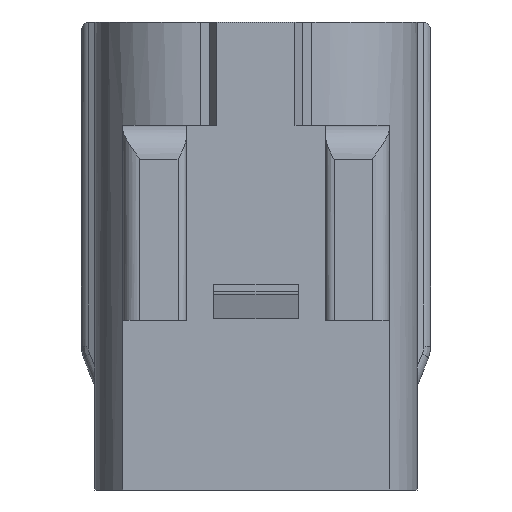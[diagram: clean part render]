
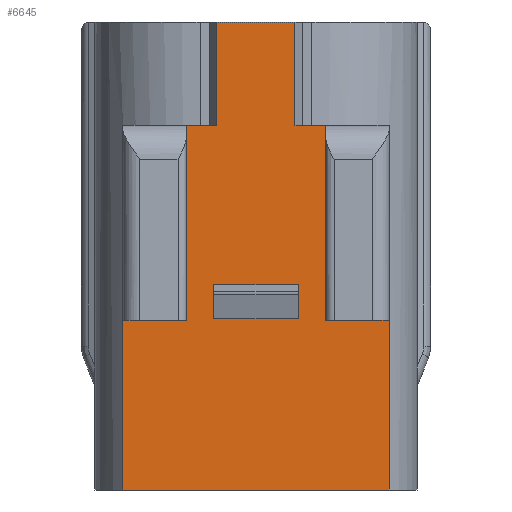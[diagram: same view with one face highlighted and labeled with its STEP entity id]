
A CAD part, front view. The second image highlights one B-rep face of the part: STEP entity #6645.
In plain terms, the highlighted planar face has unit normal (0, -1, 0).
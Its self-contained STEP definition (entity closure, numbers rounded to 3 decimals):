
#899=DIRECTION('',(-1.,0.,0.));
#900=VECTOR('',#899,15.7);
#901=CARTESIAN_POINT('',(7.85,-11.55,-27.6));
#902=LINE('',#901,#900);
#1352=DIRECTION('',(1.,0.,0.));
#1353=VECTOR('',#1352,4.6);
#1354=CARTESIAN_POINT('',(-2.3,-11.55,0.));
#1355=LINE('',#1354,#1353);
#1604=DIRECTION('',(0.,0.,1.));
#1605=VECTOR('',#1604,2.5);
#1606=CARTESIAN_POINT('',(-4.1,-11.55,-8.6));
#1607=LINE('',#1606,#1605);
#1628=DIRECTION('',(-1.,0.,0.));
#1629=VECTOR('',#1628,1.8);
#1630=CARTESIAN_POINT('',(-2.3,-11.55,-6.1));
#1631=LINE('',#1630,#1629);
#1644=DIRECTION('',(-1.,0.,0.));
#1645=VECTOR('',#1644,1.8);
#1646=CARTESIAN_POINT('',(4.1,-11.55,-6.1));
#1647=LINE('',#1646,#1645);
#1676=DIRECTION('',(0.,0.,1.));
#1677=VECTOR('',#1676,9.);
#1678=CARTESIAN_POINT('',(-6.65,-11.55,-17.6));
#1679=LINE('',#1678,#1677);
#1680=DIRECTION('',(0.,0.,-1.));
#1681=VECTOR('',#1680,6.1);
#1682=CARTESIAN_POINT('',(-2.3,-11.55,0.));
#1683=LINE('',#1682,#1681);
#1684=DIRECTION('',(0.,0.,1.));
#1685=VECTOR('',#1684,2.5);
#1686=CARTESIAN_POINT('',(4.1,-11.55,-8.6));
#1687=LINE('',#1686,#1685);
#1688=DIRECTION('',(0.,0.,-1.));
#1689=VECTOR('',#1688,10.);
#1690=CARTESIAN_POINT('',(-7.85,-11.55,-17.6));
#1691=LINE('',#1690,#1689);
#1692=DIRECTION('',(0.,0.,-1.));
#1693=VECTOR('',#1692,2.);
#1694=CARTESIAN_POINT('',(-2.5,-11.55,-15.5));
#1695=LINE('',#1694,#1693);
#1696=DIRECTION('',(1.,0.,0.));
#1697=VECTOR('',#1696,5.);
#1698=CARTESIAN_POINT('',(-2.5,-11.55,-17.5));
#1699=LINE('',#1698,#1697);
#1700=DIRECTION('',(0.,0.,-1.));
#1701=VECTOR('',#1700,2.);
#1702=CARTESIAN_POINT('',(2.5,-11.55,-15.5));
#1703=LINE('',#1702,#1701);
#1704=DIRECTION('',(1.,0.,0.));
#1705=VECTOR('',#1704,5.);
#1706=CARTESIAN_POINT('',(-2.5,-11.55,-15.5));
#1707=LINE('',#1706,#1705);
#1735=DIRECTION('',(-1.,0.,0.));
#1736=VECTOR('',#1735,1.2);
#1737=CARTESIAN_POINT('',(-6.65,-11.55,-17.6));
#1738=LINE('',#1737,#1736);
#1761=DIRECTION('',(-1.,0.,0.));
#1762=VECTOR('',#1761,1.2);
#1763=CARTESIAN_POINT('',(7.85,-11.55,-17.6));
#1764=LINE('',#1763,#1762);
#1825=DIRECTION('',(1.,0.,0.));
#1826=VECTOR('',#1825,2.55);
#1827=CARTESIAN_POINT('',(4.1,-11.55,-8.6));
#1828=LINE('',#1827,#1826);
#1829=DIRECTION('',(1.,0.,0.));
#1830=VECTOR('',#1829,2.55);
#1831=CARTESIAN_POINT('',(-6.65,-11.55,-8.6));
#1832=LINE('',#1831,#1830);
#1910=DIRECTION('',(0.,0.,-1.));
#1911=VECTOR('',#1910,10.);
#1912=CARTESIAN_POINT('',(7.85,-11.55,-17.6));
#1913=LINE('',#1912,#1911);
#2293=DIRECTION('',(0.,0.,1.));
#2294=VECTOR('',#2293,9.);
#2295=CARTESIAN_POINT('',(6.65,-11.55,-17.6));
#2296=LINE('',#2295,#2294);
#2340=DIRECTION('',(0.,0.,-1.));
#2341=VECTOR('',#2340,6.1);
#2342=CARTESIAN_POINT('',(2.3,-11.55,0.));
#2343=LINE('',#2342,#2341);
#3871=CARTESIAN_POINT('',(-2.3,-11.55,0.));
#3872=CARTESIAN_POINT('',(2.3,-11.55,0.));
#3873=VERTEX_POINT('',#3871);
#3874=VERTEX_POINT('',#3872);
#3911=CARTESIAN_POINT('',(2.3,-11.55,-6.1));
#3913=VERTEX_POINT('',#3911);
#3916=CARTESIAN_POINT('',(-2.3,-11.55,-6.1));
#3918=VERTEX_POINT('',#3916);
#3919=CARTESIAN_POINT('',(4.1,-11.55,-6.1));
#3920=VERTEX_POINT('',#3919);
#3921=CARTESIAN_POINT('',(-4.1,-11.55,-6.1));
#3922=VERTEX_POINT('',#3921);
#3923=CARTESIAN_POINT('',(7.85,-11.55,-27.6));
#3924=CARTESIAN_POINT('',(-7.85,-11.55,-27.6));
#3925=VERTEX_POINT('',#3923);
#3926=VERTEX_POINT('',#3924);
#4079=CARTESIAN_POINT('',(4.1,-11.55,-8.6));
#4081=VERTEX_POINT('',#4079);
#4083=CARTESIAN_POINT('',(-4.1,-11.55,-8.6));
#4085=VERTEX_POINT('',#4083);
#4087=CARTESIAN_POINT('',(6.65,-11.55,-8.6));
#4088=VERTEX_POINT('',#4087);
#4089=CARTESIAN_POINT('',(-6.65,-11.55,-8.6));
#4090=VERTEX_POINT('',#4089);
#4091=CARTESIAN_POINT('',(6.65,-11.55,-17.6));
#4092=VERTEX_POINT('',#4091);
#4097=CARTESIAN_POINT('',(-6.65,-11.55,-17.6));
#4098=VERTEX_POINT('',#4097);
#4119=CARTESIAN_POINT('',(-2.5,-11.55,-15.5));
#4120=CARTESIAN_POINT('',(-2.5,-11.55,-17.5));
#4121=VERTEX_POINT('',#4119);
#4122=VERTEX_POINT('',#4120);
#4123=CARTESIAN_POINT('',(2.5,-11.55,-15.5));
#4124=CARTESIAN_POINT('',(2.5,-11.55,-17.5));
#4125=VERTEX_POINT('',#4123);
#4126=VERTEX_POINT('',#4124);
#4625=CARTESIAN_POINT('',(7.85,-11.55,-17.6));
#4626=VERTEX_POINT('',#4625);
#4627=CARTESIAN_POINT('',(-7.85,-11.55,-17.6));
#4628=VERTEX_POINT('',#4627);
#6603=CARTESIAN_POINT('',(-2.3,-11.55,0.));
#6604=DIRECTION('',(0.,-1.,0.));
#6605=DIRECTION('',(1.,0.,0.));
#6606=AXIS2_PLACEMENT_3D('',#6603,#6604,#6605);
#6607=PLANE('',#6606);
#6609=ORIENTED_EDGE('',*,*,#6608,.F.);
#6611=ORIENTED_EDGE('',*,*,#6610,.T.);
#6613=ORIENTED_EDGE('',*,*,#6612,.T.);
#6614=ORIENTED_EDGE('',*,*,#6510,.T.);
#6615=ORIENTED_EDGE('',*,*,#6535,.F.);
#6616=ORIENTED_EDGE('',*,*,#6598,.F.);
#6617=ORIENTED_EDGE('',*,*,#6263,.T.);
#6619=ORIENTED_EDGE('',*,*,#6618,.T.);
#6620=ORIENTED_EDGE('',*,*,#6550,.F.);
#6622=ORIENTED_EDGE('',*,*,#6621,.F.);
#6624=ORIENTED_EDGE('',*,*,#6623,.T.);
#6626=ORIENTED_EDGE('',*,*,#6625,.F.);
#6628=ORIENTED_EDGE('',*,*,#6627,.F.);
#6630=ORIENTED_EDGE('',*,*,#6629,.T.);
#6631=ORIENTED_EDGE('',*,*,#5629,.T.);
#6632=ORIENTED_EDGE('',*,*,#6442,.F.);
#6633=EDGE_LOOP('',(#6609,#6611,#6613,#6614,#6615,#6616,#6617,#6619,#6620,#6622,
#6624,#6626,#6628,#6630,#6631,#6632));
#6634=FACE_OUTER_BOUND('',#6633,.F.);
#6636=ORIENTED_EDGE('',*,*,#6635,.T.);
#6638=ORIENTED_EDGE('',*,*,#6637,.T.);
#6640=ORIENTED_EDGE('',*,*,#6639,.F.);
#6642=ORIENTED_EDGE('',*,*,#6641,.F.);
#6643=EDGE_LOOP('',(#6636,#6638,#6640,#6642));
#6644=FACE_BOUND('',#6643,.F.);
#6645=ADVANCED_FACE('',(#6634,#6644),#6607,.T.);
#5629=EDGE_CURVE('',#3925,#3926,#902,.T.);
#6263=EDGE_CURVE('',#3873,#3874,#1355,.T.);
#6442=EDGE_CURVE('',#4628,#3926,#1691,.T.);
#6510=EDGE_CURVE('',#4085,#3922,#1607,.T.);
#6535=EDGE_CURVE('',#3918,#3922,#1631,.T.);
#6550=EDGE_CURVE('',#3920,#3913,#1647,.T.);
#6598=EDGE_CURVE('',#3873,#3918,#1683,.T.);
#6608=EDGE_CURVE('',#4098,#4628,#1738,.T.);
#6610=EDGE_CURVE('',#4098,#4090,#1679,.T.);
#6612=EDGE_CURVE('',#4090,#4085,#1832,.T.);
#6618=EDGE_CURVE('',#3874,#3913,#2343,.T.);
#6621=EDGE_CURVE('',#4081,#3920,#1687,.T.);
#6623=EDGE_CURVE('',#4081,#4088,#1828,.T.);
#6625=EDGE_CURVE('',#4092,#4088,#2296,.T.);
#6627=EDGE_CURVE('',#4626,#4092,#1764,.T.);
#6629=EDGE_CURVE('',#4626,#3925,#1913,.T.);
#6635=EDGE_CURVE('',#4121,#4122,#1695,.T.);
#6637=EDGE_CURVE('',#4122,#4126,#1699,.T.);
#6639=EDGE_CURVE('',#4125,#4126,#1703,.T.);
#6641=EDGE_CURVE('',#4121,#4125,#1707,.T.);
